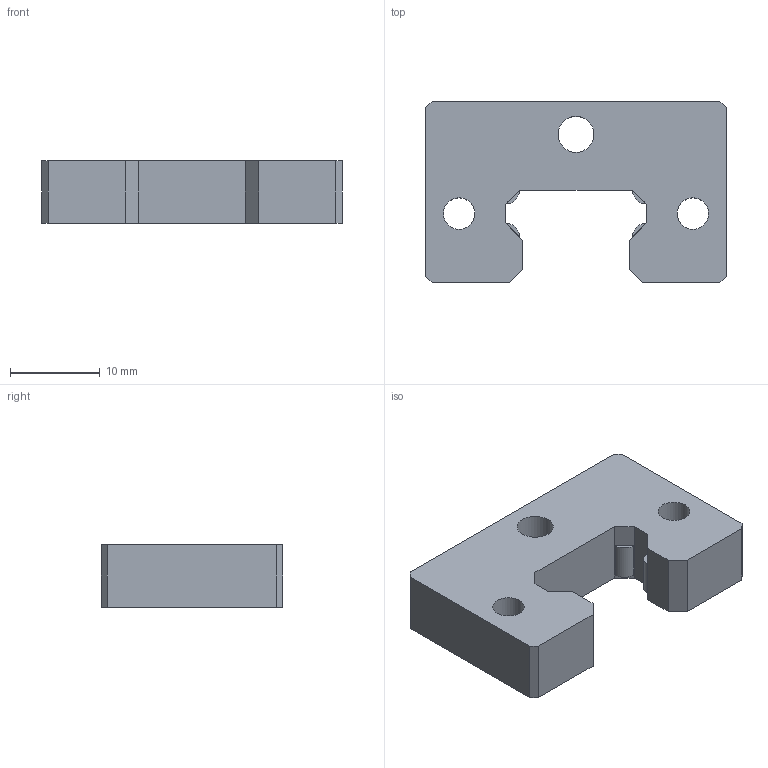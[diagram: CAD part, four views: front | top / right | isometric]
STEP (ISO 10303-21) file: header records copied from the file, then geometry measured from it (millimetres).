
FILE_DESCRIPTION (( 'STEP AP203' ), '1' );
FILE_NAME ('MF 15A.STEP', '2014-12-02T23:37:32', ( 'john' ), ( '' ), 'SwSTEP 2.0', 'SolidWorks 2013', '' );
FILE_SCHEMA (( 'CONFIG_CONTROL_DESIGN' ));
Length unit declared in the file: millimetre
Products named in the file (1): MF 15A
Bounding box: 33.4 x 20.2 x 7 mm (x, y, z)
Volume: 3530.7 mm3; surface area: 2152.1 mm2
Topology: 1 solids, 1 shells, 37 faces, 93 edges, 62 vertices
Faces by surface type: plane 30, cylinder 7
Full cylindrical faces by diameter (mm): 3.5 x2, 4 x1
Entity records: 1175 total; most frequent: CARTESIAN_POINT 190, ORIENTED_EDGE 180, DIRECTION 180, EDGE_CURVE 90, VECTOR 76, LINE 76, VERTEX_POINT 62, AXIS2_PLACEMENT_3D 52
